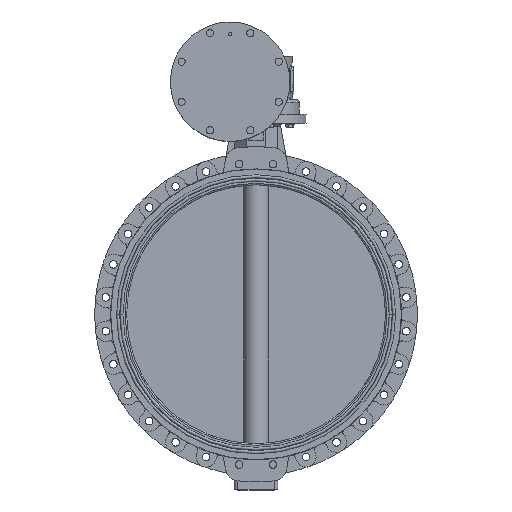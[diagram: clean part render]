
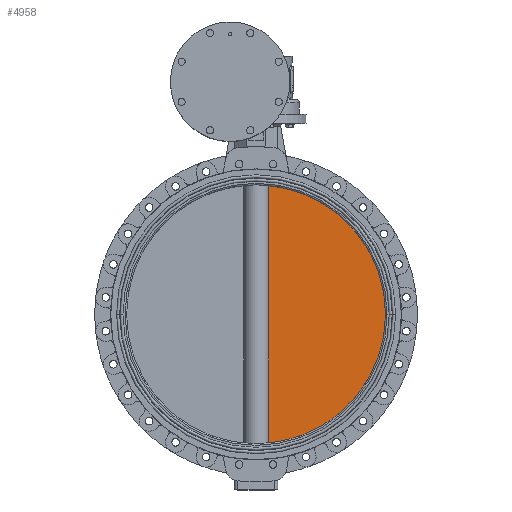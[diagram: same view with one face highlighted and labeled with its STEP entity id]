
A CAD part, top view. The second image highlights one B-rep face of the part: STEP entity #4958.
In plain terms, the highlighted planar face has unit normal (0, 0, 1).
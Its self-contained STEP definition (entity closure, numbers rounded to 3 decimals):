
#1966 = VERTEX_POINT ( 'NONE', #39009 ) ;
#2609 = ORIENTED_EDGE ( 'NONE', *, *, #10005, .T. ) ;
#2868 = LINE ( 'NONE', #36745, #30274 ) ;
#4958 = ADVANCED_FACE ( 'NONE', ( #16434 ), #13215, .F. ) ;
#4994 = DIRECTION ( 'NONE',  ( 0., 0., -1. ) ) ;
#5192 = DIRECTION ( 'NONE',  ( -1., 0., 0. ) ) ;
#8588 = ORIENTED_EDGE ( 'NONE', *, *, #22515, .F. ) ;
#10005 = EDGE_CURVE ( 'NONE', #26856, #1966, #2868, .T. ) ;
#12545 = CIRCLE ( 'NONE', #34701, 450. ) ;
#13215 = PLANE ( 'NONE',  #20463 ) ;
#14411 = DIRECTION ( 'NONE',  ( 0., 0., -1. ) ) ;
#15058 = CIRCLE ( 'NONE', #33971, 450. ) ;
#16434 = FACE_OUTER_BOUND ( 'NONE', #16606, .T. ) ;
#16606 = EDGE_LOOP ( 'NONE', ( #36803, #2609, #8588 ) ) ;
#17603 = DIRECTION ( 'NONE',  ( -1., 0., 0. ) ) ;
#18053 = CARTESIAN_POINT ( 'NONE',  ( 0., 0., 12.5 ) ) ;
#18367 = DIRECTION ( 'NONE',  ( 0., -1., 0. ) ) ;
#20463 = AXIS2_PLACEMENT_3D ( 'NONE', #26267, #35042, #17603 ) ;
#21510 = EDGE_CURVE ( 'NONE', #26856, #22544, #15058, .T. ) ;
#22515 = EDGE_CURVE ( 'NONE', #22544, #1966, #12545, .T. ) ;
#22544 = VERTEX_POINT ( 'NONE', #24029 ) ;
#23721 = CARTESIAN_POINT ( 'NONE',  ( 43.229, 447.919, 12.5 ) ) ;
#24029 = CARTESIAN_POINT ( 'NONE',  ( 450., 0., 12.5 ) ) ;
#26267 = CARTESIAN_POINT ( 'NONE',  ( 43.229, 805.001, 12.5 ) ) ;
#26856 = VERTEX_POINT ( 'NONE', #23721 ) ;
#30274 = VECTOR ( 'NONE', #18367, 1000. ) ;
#33573 = DIRECTION ( 'NONE',  ( -1., 0., 0. ) ) ;
#33971 = AXIS2_PLACEMENT_3D ( 'NONE', #18053, #4994, #5192 ) ;
#34701 = AXIS2_PLACEMENT_3D ( 'NONE', #36045, #14411, #33573 ) ;
#35042 = DIRECTION ( 'NONE',  ( 0., 0., -1. ) ) ;
#36045 = CARTESIAN_POINT ( 'NONE',  ( 0., 0., 12.5 ) ) ;
#36745 = CARTESIAN_POINT ( 'NONE',  ( 43.229, 805.001, 12.5 ) ) ;
#36803 = ORIENTED_EDGE ( 'NONE', *, *, #21510, .F. ) ;
#39009 = CARTESIAN_POINT ( 'NONE',  ( 43.229, -447.919, 12.5 ) ) ;
